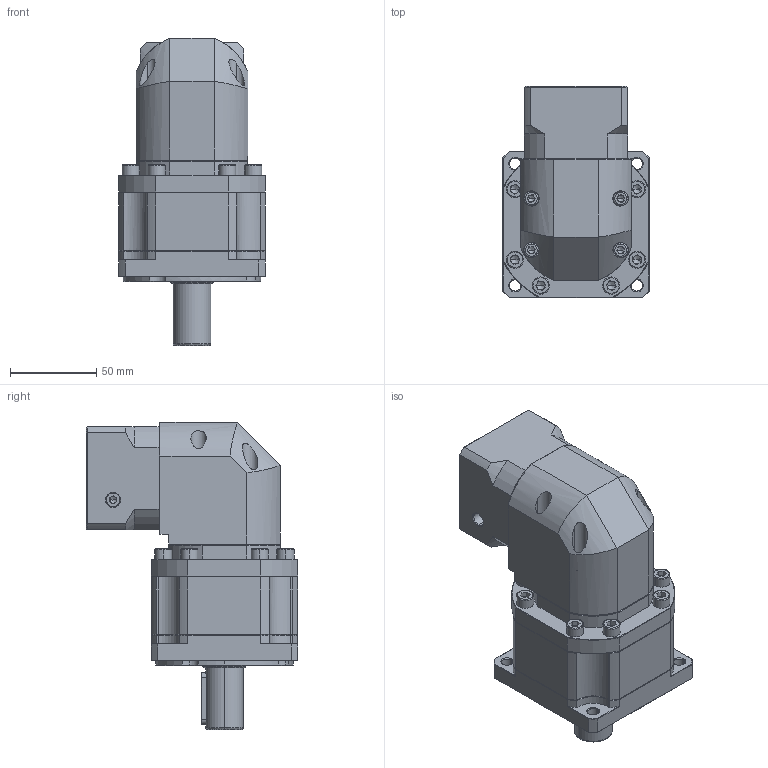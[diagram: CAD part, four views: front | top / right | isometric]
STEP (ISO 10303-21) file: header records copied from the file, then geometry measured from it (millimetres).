
FILE_DESCRIPTION (( 'STEP AP214' ), '1' );
FILE_NAME ('ZBR090-D22-L2-P2-8-30-46-M4.step', '2023-08-19T03:58:51', ( '' ), ( '' ), 'SwSTEP 2.0', 'SolidWorks 2016', '' );
FILE_SCHEMA (( 'AUTOMOTIVE_DESIGN' ));
Length unit declared in the file: millimetre
Products named in the file (1): ZBR090-D22-L2-P2-8-30-46-M4
Bounding box: 85 x 122.7 x 178.5 mm (x, y, z)
Volume: 809443.7 mm3; surface area: 101281.5 mm2
Topology: 5 solids, 5 shells, 2481 faces, 6616 edges, 4242 vertices
Faces by surface type: plane 1176, bspline 490, cylinder 429, cone 366, torus 20
Entity records: 147331 total; most frequent: CARTESIAN_POINT 62046, ORIENTED_EDGE 13156, DIRECTION 10330, EDGE_CURVE 6578, VERTEX_POINT 4242, VECTOR 4012, LINE 4012, AXIS2_PLACEMENT_3D 3159
